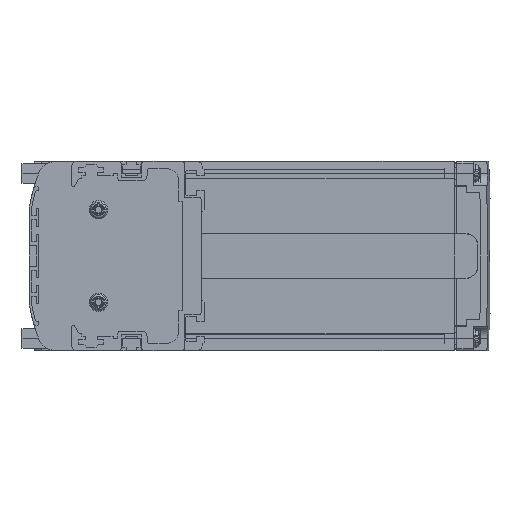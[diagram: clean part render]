
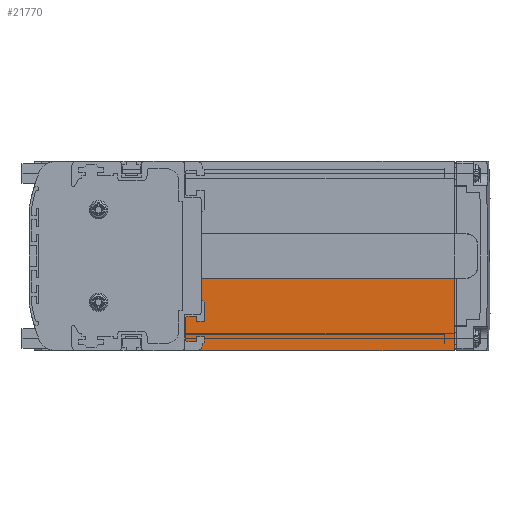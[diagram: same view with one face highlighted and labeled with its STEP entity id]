
A CAD part, left-side view. The second image highlights one B-rep face of the part: STEP entity #21770.
In plain terms, the highlighted planar face has unit normal (-1, 0, 0).
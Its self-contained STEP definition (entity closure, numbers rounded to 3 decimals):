
#149=DIRECTION('',(0.,0.,1.));
#150=VECTOR('',#149,29.9);
#151=CARTESIAN_POINT('',(3.,-103.,-39.));
#152=LINE('',#151,#150);
#395=DIRECTION('',(0.,1.,0.));
#396=VECTOR('',#395,112.);
#397=CARTESIAN_POINT('',(3.,-103.,-39.));
#398=LINE('',#397,#396);
#4982=DIRECTION('',(0.,0.,1.));
#4983=VECTOR('',#4982,13.9);
#4984=CARTESIAN_POINT('',(3.,1.,-23.));
#4985=LINE('',#4984,#4983);
#7187=DIRECTION('',(0.,1.,0.));
#7188=VECTOR('',#7187,104.);
#7189=CARTESIAN_POINT('',(3.,-103.,-9.1));
#7190=LINE('',#7189,#7188);
#15260=CARTESIAN_POINT('',(3.,2.,-23.));
#15261=DIRECTION('',(-1.,0.,0.));
#15262=DIRECTION('',(0.,0.,-1.));
#15263=AXIS2_PLACEMENT_3D('',#15260,#15261,#15262);
#15273=DIRECTION('',(0.,1.,0.));
#15274=VECTOR('',#15273,6.);
#15275=CARTESIAN_POINT('',(3.,2.,-24.));
#15276=LINE('',#15275,#15274);
#15277=DIRECTION('',(0.,0.,-1.));
#15278=VECTOR('',#15277,14.);
#15279=CARTESIAN_POINT('',(3.,8.,-24.));
#15280=LINE('',#15279,#15278);
#15285=CARTESIAN_POINT('',(3.,9.,-38.));
#15286=DIRECTION('',(-1.,0.,0.));
#15287=DIRECTION('',(0.,0.,-1.));
#15288=AXIS2_PLACEMENT_3D('',#15285,#15286,#15287);
#17346=CARTESIAN_POINT('',(3.,-103.,-39.));
#17347=VERTEX_POINT('',#17346);
#17348=CARTESIAN_POINT('',(3.,-103.,-9.1));
#17349=VERTEX_POINT('',#17348);
#20926=CARTESIAN_POINT('',(3.,1.,-23.));
#20927=CARTESIAN_POINT('',(3.,1.,-9.1));
#20928=VERTEX_POINT('',#20926);
#20929=VERTEX_POINT('',#20927);
#20974=CARTESIAN_POINT('',(3.,2.,-24.));
#20975=VERTEX_POINT('',#20974);
#20976=CARTESIAN_POINT('',(3.,8.,-24.));
#20977=VERTEX_POINT('',#20976);
#20978=CARTESIAN_POINT('',(3.,8.,-38.));
#20979=VERTEX_POINT('',#20978);
#20980=CARTESIAN_POINT('',(3.,9.,-39.));
#20981=VERTEX_POINT('',#20980);
#21747=CARTESIAN_POINT('',(3.,48.25,0.));
#21748=DIRECTION('',(1.,0.,0.));
#21749=DIRECTION('',(0.,1.,0.));
#21750=AXIS2_PLACEMENT_3D('',#21747,#21748,#21749);
#21751=PLANE('',#21750);
#21753=ORIENTED_EDGE('',*,*,#21752,.T.);
#21755=ORIENTED_EDGE('',*,*,#21754,.F.);
#21757=ORIENTED_EDGE('',*,*,#21756,.F.);
#21759=ORIENTED_EDGE('',*,*,#21758,.T.);
#21761=ORIENTED_EDGE('',*,*,#21760,.T.);
#21763=ORIENTED_EDGE('',*,*,#21762,.F.);
#21765=ORIENTED_EDGE('',*,*,#21764,.F.);
#21767=ORIENTED_EDGE('',*,*,#21766,.T.);
#21768=EDGE_LOOP('',(#21753,#21755,#21757,#21759,#21761,#21763,#21765,#21767));
#21769=FACE_OUTER_BOUND('',#21768,.F.);
#21770=ADVANCED_FACE('',(#21769),#21751,.F.);
#15264=CIRCLE('',#15263,1.);
#15289=CIRCLE('',#15288,1.);
#21752=EDGE_CURVE('',#20928,#20929,#4985,.T.);
#21754=EDGE_CURVE('',#17349,#20929,#7190,.T.);
#21756=EDGE_CURVE('',#17347,#17349,#152,.T.);
#21758=EDGE_CURVE('',#17347,#20981,#398,.T.);
#21760=EDGE_CURVE('',#20981,#20979,#15289,.T.);
#21762=EDGE_CURVE('',#20977,#20979,#15280,.T.);
#21764=EDGE_CURVE('',#20975,#20977,#15276,.T.);
#21766=EDGE_CURVE('',#20975,#20928,#15264,.T.);
